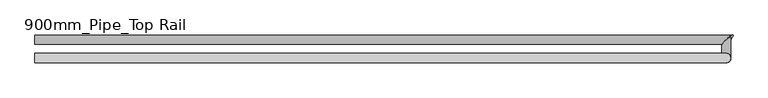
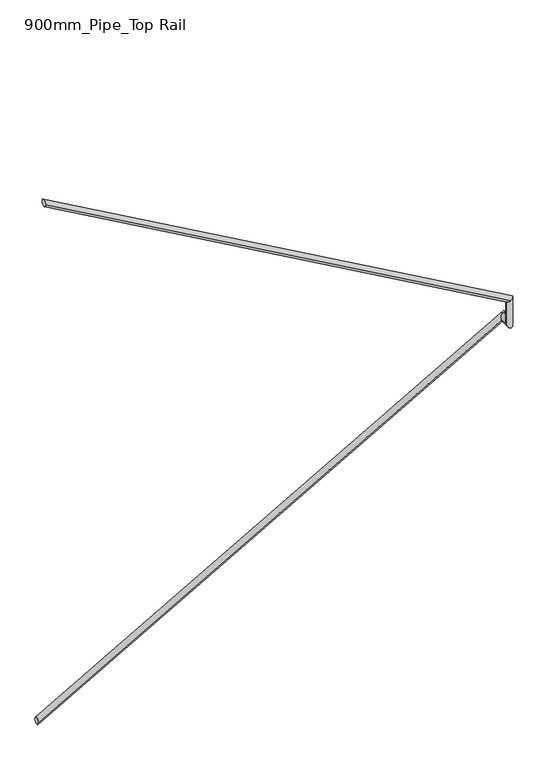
"""IFC4 building model written with IfcOpenShell, lengths in millimetres: railing geometry, 900mm_Pipe_Top Rail."""

import ifcopenshell
import ifcopenshell.guid

model = None  # the IFC model being written
_history = None  # IfcOwnerHistory: only IFC2X3 demands one
_inside = {}  # id of a spatial element -> (the spatial element, [elements in it])
_under = {}  # id of a project, library or spatial element -> (it, [spatial elements below it])
_declared = {}  # id of a project -> (the project, [libraries it declares])
_typed = {}  # id of a type object -> (the type object, [elements of that type])
_made_of = {}  # id of a material, layer set ... -> (it, [elements and type objects made of it])


def new_model(schema):
    """Start an empty IFC model of exactly this schema.

    Asked for "IFC4X3", IfcOpenShell would pick the latest addendum, in which some entities
    have other attributes; the version numbers below select the first issue.
    IFC2X3 requires an IfcOwnerHistory on every rooted entity: one is made here for all.
    """
    global model, _history
    if schema == "IFC4X3":
        model = ifcopenshell.file(schema_version=(4, 3, 0, 0))
    else:
        model = ifcopenshell.file(schema=schema)
    _inside.clear()
    _under.clear()
    _declared.clear()
    _typed.clear()
    _made_of.clear()
    _history = None
    if model.schema == "IFC2X3":
        org = make("IfcOrganization", Name="unknown")
        user = make(
            "IfcPersonAndOrganization",
            ThePerson=make("IfcPerson", FamilyName="unknown"),
            TheOrganization=org,
        )
        app = make(
            "IfcApplication",
            ApplicationDeveloper=org,
            Version="unknown",
            ApplicationFullName="unknown",
            ApplicationIdentifier="unknown",
        )
        _history = make(
            "IfcOwnerHistory",
            OwningUser=user,
            OwningApplication=app,
            ChangeAction="ADDED",
            CreationDate=0,
        )
    return model


def make(cls, **values):
    """One entity of the class cls with the attributes given. An attribute that is None is left unset."""
    return model.create_entity(
        cls, **{name: value for name, value in values.items() if value is not None}
    )


def rooted(cls, **values):
    """An entity with a GlobalId (a new one), such as an element, a storey or a relation."""
    return make(cls, GlobalId=ifcopenshell.guid.new(), OwnerHistory=_history, **values)


def si_unit(unit_type, name, prefix=None):
    """IfcSIUnit, for example si_unit("LENGTHUNIT", "METRE", prefix="MILLI")."""
    return make("IfcSIUnit", UnitType=unit_type, Prefix=prefix, Name=name)


def assignment(units):
    """IfcUnitAssignment: the units of a project."""
    return None if units is None else make("IfcUnitAssignment", Units=units)


def point(xyz):
    """IfcCartesianPoint."""
    return None if xyz is None else make("IfcCartesianPoint", Coordinates=xyz)


def direction(xyz):
    """IfcDirection."""
    return None if xyz is None else make("IfcDirection", DirectionRatios=xyz)


def frame(location, z_axis=None, x_axis=None):
    """IfcAxis2Placement3D, a coordinate frame: its origin and axes. An axis left out is left unset."""
    return make(
        "IfcAxis2Placement3D",
        Location=point(location),
        Axis=direction(z_axis),
        RefDirection=direction(x_axis),
    )


def origin():
    """The frame at (0, 0, 0) with its axes left unset."""
    return frame((0.0, 0.0, 0.0))


def place(relative_to, where):
    """IfcLocalPlacement: puts the frame where relative to a parent placement (None: the world)."""
    return make(
        "IfcLocalPlacement", PlacementRelTo=relative_to, RelativePlacement=where
    )


def context(
    kind, dimensions, precision=None, world=None, true_north=None, identifier=None
):
    """IfcGeometricRepresentationContext, for example the 3D "Model" context."""
    return make(
        "IfcGeometricRepresentationContext",
        ContextIdentifier=identifier,
        ContextType=kind,
        CoordinateSpaceDimension=dimensions,
        Precision=precision,
        WorldCoordinateSystem=world,
        TrueNorth=true_north,
    )


def project(units=None, contexts=None):
    """IfcProject with its units and contexts."""
    return rooted(
        "IfcProject",
        Name="project",
        RepresentationContexts=contexts,
        UnitsInContext=assignment(units),
    )


def spatial(cls, under=None, at=None, **own):
    """A site, building, storey or space (cls), placed at a placement, below another one or the project."""
    s = rooted(cls, ObjectPlacement=at, **own)
    if under is not None:
        _under.setdefault(under.id(), (under, []))[1].append(s)
    return s


def ellipse_curve(where, semi_axis1, semi_axis2):
    """IfcEllipse in the frame where."""
    return make(
        "IfcEllipse", Position=where, SemiAxis1=semi_axis1, SemiAxis2=semi_axis2
    )


def shape(context_of_items, identifier, shape_type, items):
    """IfcShapeRepresentation: the items that make up one representation, for example the "Body"."""
    return make(
        "IfcShapeRepresentation",
        ContextOfItems=context_of_items,
        RepresentationIdentifier=identifier,
        RepresentationType=shape_type,
        Items=items,
    )


def source(mapping_origin, context_of_items, identifier, shape_type, items):
    """IfcRepresentationMap: a shape defined once, which mapped items show again and again."""
    return make(
        "IfcRepresentationMap",
        MappingOrigin=mapping_origin,
        MappedRepresentation=shape(context_of_items, identifier, shape_type, items),
    )


def transform(
    local_origin,
    x_axis=None,
    y_axis=None,
    z_axis=None,
    scale=None,
    scale2=None,
    scale3=None,
    uniform=True,
):
    """IfcCartesianTransformationOperator3D, or its non-uniform kind. x_axis, y_axis, z_axis: its Axis1, 2, 3."""
    if uniform:
        return make(
            "IfcCartesianTransformationOperator3D",
            Axis1=direction(x_axis),
            Axis2=direction(y_axis),
            LocalOrigin=point(local_origin),
            Scale=scale,
            Axis3=direction(z_axis),
        )
    return make(
        "IfcCartesianTransformationOperator3DnonUniform",
        Axis1=direction(x_axis),
        Axis2=direction(y_axis),
        LocalOrigin=point(local_origin),
        Scale=scale,
        Axis3=direction(z_axis),
        Scale2=scale2,
        Scale3=scale3,
    )


def mapped(mapping_source, mapping_target):
    """IfcMappedItem: shows the shape of a source again, moved by a transform."""
    return make(
        "IfcMappedItem", MappingSource=mapping_source, MappingTarget=mapping_target
    )


def made_of(thing, what):
    """Note that an element or type object is made of a material, layer set ...; save() writes the relation."""
    if what is not None:
        _made_of.setdefault(what.id(), (what, []))[1].append(thing)
    return thing


def element(
    cls,
    number,
    at=None,
    inside=None,
    cuts=None,
    type_object=None,
    material=None,
    context=None,
    identifier="Body",
    shape_type=None,
    held_by="IfcProductDefinitionShape",
    body=None,
    shapes=None,
    **own,
):
    """One element of the class cls, such as IfcWall. Its Tag is "e" and its number.

    at: its placement. inside: the storey or other place that contains it. cuts: it is an
    opening in that element (IfcRelVoidsElement). A single representation is given by context,
    identifier, shape_type and body (its items); several are given by shapes. held_by: the class
    of the entity that holds the representations. save() writes the other relations.
    """
    e = rooted(cls, Tag="e%d" % number, ObjectPlacement=at, **own)
    if body is not None:
        shapes = [shape(context, identifier, shape_type, body)]
    if shapes is not None:
        e.Representation = make(held_by, Representations=shapes)
    if inside is not None:
        _inside.setdefault(inside.id(), (inside, []))[1].append(e)
    if cuts is not None:
        rooted(
            "IfcRelVoidsElement", RelatingBuildingElement=cuts, RelatedOpeningElement=e
        )
    if type_object is not None:
        _typed.setdefault(type_object.id(), (type_object, []))[1].append(e)
    return made_of(e, material)


def aggregate(whole, parts):
    """IfcRelAggregates: a whole, such as a stair, and the parts it consists of."""
    return rooted("IfcRelAggregates", RelatingObject=whole, RelatedObjects=parts)


def save(model, path):
    """Write the relations noted so far, then the file.

    IfcRelAggregates (storeys below a building ...), IfcRelContainedInSpatialStructure (elements
    in a storey), IfcRelDefinesByType, IfcRelAssociatesMaterial and IfcRelDeclares: one each for
    every whole, place, type object, material and project.
    """
    for whole, parts in _under.values():
        aggregate(whole, parts)
    for where, things in _inside.values():
        rooted(
            "IfcRelContainedInSpatialStructure",
            RelatedElements=things,
            RelatingStructure=where,
        )
    for kind, things in _typed.values():
        rooted("IfcRelDefinesByType", RelatedObjects=things, RelatingType=kind)
    for what, things in _made_of.values():
        rooted("IfcRelAssociatesMaterial", RelatedObjects=things, RelatingMaterial=what)
    for by, libraries in _declared.values():
        rooted("IfcRelDeclares", RelatingContext=by, RelatedDefinitions=libraries)
    model.write(path)


def plane_surface(at):
    """IfcPlane: the flat surface through the origin of the frame at, square to its z axis."""
    return make("IfcPlane", Position=at)


def cylinder_surface(at, radius):
    """IfcCylindricalSurface: all points at the distance radius from the z axis of the frame at."""
    return make("IfcCylindricalSurface", Position=at, Radius=radius)


def advanced_brep(points, edges, surfaces, faces):
    """IfcAdvancedBrep: a solid bounded by faces that lie on surfaces and meet in shared edges.

    An edge is (start, end): straight between two places in points (the first is 0);
    or (start, end, curve); or (start, end, curve, False) where it runs against its curve.
    A face is (place in surfaces, loops), or (place, loops, False) where it looks against
    its surface's normal. A loop lists edges by number (the first is 1), with a minus sign
    where the edge is run from its end to its start. The first loop is the outer one.
    """
    corners = [point(p) for p in points]
    vertices = [make("IfcVertexPoint", VertexGeometry=c) for c in corners]
    made = []
    for start, end, *more in edges:
        made.append(
            make(
                "IfcEdgeCurve",
                EdgeStart=vertices[start],
                EdgeEnd=vertices[end],
                EdgeGeometry=more[0] if more else make("IfcPolyline", Points=[corners[start], corners[end]]),
                SameSense=more[1] if len(more) > 1 else True,
            )
        )
    hull = []
    for where, loops, *sense in faces:
        bounds = []
        for j, loop in enumerate(loops):
            ring = [make("IfcOrientedEdge", EdgeElement=made[abs(k) - 1], Orientation=k > 0) for k in loop]
            bounds.append(
                make(
                    "IfcFaceOuterBound" if j == 0 else "IfcFaceBound",
                    Bound=make("IfcEdgeLoop", EdgeList=ring),
                    Orientation=True,
                )
            )
        hull.append(make("IfcAdvancedFace", Bounds=bounds, FaceSurface=surfaces[where], SameSense=sense[0] if sense else True))
    return make("IfcAdvancedBrep", Outer=make("IfcClosedShell", CfsFaces=hull))


def railing_900mm_pipe_top_rail_08d98103(model_context):
    return source(origin(), model_context, "Body", "AdvancedBrep", [
        advanced_brep(
        [(-801.4958562, 12314.5395051, 8557.451671), (-801.4958562, 12354.5395051, 8557.451671), (2190.9952008, 12314.5395051, 10257.7306807), (2225.7734631, 12354.5395051, 10277.491057)],
        [
            (0, 1, ellipse_curve(frame((-801.4958562, 12334.5395051, 8557.451671), z_axis=(-1.0, 0.0, 0.0), x_axis=(0.0, 0.0, -0.9999999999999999)), 23.0028744, 20.0)),
            (1, 0, ellipse_curve(frame((-801.4958562, 12334.5395051, 8557.451671), z_axis=(-1.0, 0.0, 0.0), x_axis=(0.0, 0.0, -0.9999999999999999)), 23.0028744, 20.0)),
            (2, 3, ellipse_curve(frame((2208.3843319, 12334.5395051, 10267.6108689), z_axis=(0.6147986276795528, -0.7071067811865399, 0.34931740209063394), x_axis=(-0.6147986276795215, -0.7071067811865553, -0.34931740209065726)), 28.2842712, 20.0)),
            (3, 2, ellipse_curve(frame((2208.3843319, 12334.5395051, 10267.6108689), z_axis=(0.6147986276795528, -0.7071067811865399, 0.34931740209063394), x_axis=(-0.6147986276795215, -0.7071067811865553, -0.34931740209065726)), 28.2842712, 20.0)),
            (0, 2),
            (3, 1),
        ],
        [
            plane_surface(frame((-801.4958562, 12334.5395051, 8580.4545455), z_axis=(-1.0, 0.0, 0.0), x_axis=(0.0, 1.0, 0.0))),
            plane_surface(frame((2198.5041438, 12334.5395051, 10285.0), z_axis=(0.6147986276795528, -0.7071067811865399, 0.34931740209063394), x_axis=(0.7886841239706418, 0.5512070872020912, -0.27230148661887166))),
            cylinder_surface(frame((-791.6156681, 12334.5395051, 8563.0654143), z_axis=(-0.8694565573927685, 0.0, -0.49400940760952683), x_axis=(0.0, 1.0, 0.0)), 20.0),
        ],
        [
            (0, [[1, 2]]),
            (1, [[3, 4]]),
            (2, [[-1, 5, -4, 6]]),
            (2, [[-2, -6, -3, -5]]),
        ],
    ),
        advanced_brep(
        [(2178.9041438, 12307.2701858, 10265.0), (2218.9041438, 12342.0484481, 10265.0), (2178.9041438, 12254.2238126, 10265.0), (2218.9041438, 12254.2238126, 10265.0)],
        [
            (0, 1, ellipse_curve(frame((2198.9041438, 12324.6593169, 10265.0), z_axis=(-0.6147986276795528, 0.7071067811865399, -0.34931740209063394), x_axis=(0.6147986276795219, 0.707106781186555, 0.3493174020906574)), 28.2842712, 20.0)),
            (1, 0, ellipse_curve(frame((2198.9041438, 12324.6593169, 10265.0), z_axis=(-0.6147986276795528, 0.7071067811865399, -0.34931740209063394), x_axis=(0.6147986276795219, 0.707106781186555, 0.3493174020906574)), 28.2842712, 20.0)),
            (2, 3, ellipse_curve(frame((2198.9041438, 12254.2238126, 10265.0), z_axis=(0.0, -0.7071067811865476, 0.7071067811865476), x_axis=(0.0, 0.7071067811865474, 0.7071067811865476)), 28.2842712, 20.0)),
            (3, 2, ellipse_curve(frame((2198.9041438, 12254.2238126, 10265.0), z_axis=(0.0, -0.7071067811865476, 0.7071067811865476), x_axis=(0.0, 0.7071067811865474, 0.7071067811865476)), 28.2842712, 20.0)),
            (0, 2),
            (3, 1),
        ],
        [
            plane_surface(frame((2198.9041438, 12334.5395051, 10285.0), z_axis=(-0.6147986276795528, 0.7071067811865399, -0.34931740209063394), x_axis=(0.7886841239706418, 0.5512070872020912, -0.27230148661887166))),
            plane_surface(frame((2198.9041438, 12274.2238126, 10285.0), z_axis=(0.0, -0.7071067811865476, 0.7071067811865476), x_axis=(1.0, 0.0, 0.0))),
            cylinder_surface(frame((2198.9041438, 12334.5395051, 10265.0), z_axis=(0.0, 1.0, 0.0), x_axis=(1.0, 0.0, 0.0)), 20.0),
        ],
        [
            (0, [[1, 2]]),
            (1, [[3, 4]]),
            (2, [[-1, 5, -4, 6]]),
            (2, [[-2, -6, -3, -5]]),
        ],
    ),
        advanced_brep(
        [(2178.9041438, 12254.2238126, 10265.0), (2218.9041438, 12254.2238126, 10265.0), (2178.9041438, 12254.2238126, 10420.5851603), (2218.9041438, 12254.2238126, 10443.8636364)],
        [
            (0, 1, ellipse_curve(frame((2198.9041438, 12254.2238126, 10265.0), z_axis=(0.0, 0.7071067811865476, -0.7071067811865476), x_axis=(0.0, -0.7071067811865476, -0.7071067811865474)), 28.2842712, 20.0)),
            (1, 0, ellipse_curve(frame((2198.9041438, 12254.2238126, 10265.0), z_axis=(0.0, 0.7071067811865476, -0.7071067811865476), x_axis=(0.0, -0.7071067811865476, -0.7071067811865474)), 28.2842712, 20.0)),
            (2, 3, ellipse_curve(frame((2198.9041438, 12254.2238126, 10432.2243983), z_axis=(-0.5029863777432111, 0.0, 0.8642943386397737), x_axis=(-0.8642943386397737, 0.0, -0.502986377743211)), 23.140265, 20.0)),
            (3, 2, ellipse_curve(frame((2198.9041438, 12254.2238126, 10432.2243983), z_axis=(-0.5029863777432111, 0.0, 0.8642943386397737), x_axis=(-0.8642943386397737, 0.0, -0.502986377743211)), 23.140265, 20.0)),
            (0, 2),
            (3, 1),
        ],
        [
            plane_surface(frame((2198.9041438, 12254.2238126, 10265.0), z_axis=(0.0, 0.7071067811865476, -0.7071067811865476), x_axis=(1.0, 0.0, 0.0))),
            plane_surface(frame((2198.9041438, 12254.2238126, 10432.2243983), z_axis=(-0.5029863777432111, 0.0, 0.8642943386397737), x_axis=(0.8642943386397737, 0.0, 0.5029863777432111))),
            cylinder_surface(frame((2198.9041438, 12254.2238126, 10265.0), z_axis=(0.0, 0.0, -1.0), x_axis=(1.0, 0.0, 0.0)), 20.0),
        ],
        [
            (0, [[1, 2]]),
            (1, [[3, 4]]),
            (2, [[-1, 5, -4, 6]]),
            (2, [[-2, -6, -3, -5]]),
        ],
    ),
        advanced_brep(
        [(2198.9041438, 12274.2238126, 10432.2243983), (2198.9041438, 12234.2238126, 10432.2243983), (-801.4958562, 12274.2238126, 12136.9971256), (-801.4958562, 12234.2238126, 12136.9971256)],
        [
            (0, 1, ellipse_curve(frame((2198.9041438, 12254.2238126, 10432.2243983), z_axis=(0.5029863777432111, 0.0, -0.8642943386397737), x_axis=(0.8642943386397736, 0.0, 0.5029863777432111)), 23.140265, 20.0)),
            (1, 0, ellipse_curve(frame((2198.9041438, 12254.2238126, 10432.2243983), z_axis=(0.5029863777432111, 0.0, -0.8642943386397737), x_axis=(0.8642943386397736, 0.0, 0.5029863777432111)), 23.140265, 20.0)),
            (2, 3, ellipse_curve(frame((-801.4958562, 12254.2238126, 12136.9971256), z_axis=(-1.0, 0.0, 0.0), x_axis=(0.0, 0.0, -1.0)), 23.0028744, 20.0)),
            (3, 2, ellipse_curve(frame((-801.4958562, 12254.2238126, 12136.9971256), z_axis=(-1.0, 0.0, 0.0), x_axis=(0.0, 0.0, -1.0)), 23.0028744, 20.0)),
            (0, 2),
            (3, 1),
        ],
        [
            plane_surface(frame((2218.9041438, 12254.2238126, 10443.8636364), z_axis=(0.5029863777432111, 0.0, -0.8642943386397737), x_axis=(0.8642943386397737, 0.0, 0.5029863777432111))),
            plane_surface(frame((-801.4958562, 12254.2238126, 12160.0), z_axis=(-1.0, 0.0, 0.0), x_axis=(0.0, -1.0, 0.0))),
            cylinder_surface(frame((2209.0239556, 12254.2238126, 10426.4745052), z_axis=(0.8694565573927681, 0.0, -0.49400940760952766), x_axis=(0.0, -1.0, 0.0)), 20.0),
        ],
        [
            (0, [[1, 2]]),
            (1, [[3, 4]]),
            (2, [[-1, 5, -4, 6]]),
            (2, [[-2, -6, -3, -5]]),
        ],
    ),
    ])


if __name__ == "__main__":
    model = new_model("IFC4")
    model_context = context("Model", 3, world=origin())
    ifc_project = project(units=[si_unit("LENGTHUNIT", "METRE", prefix="MILLI")], contexts=[model_context])
    site = spatial("IfcSite", under=ifc_project)
    building = spatial("IfcBuilding", under=site)
    placement = place(None, origin())
    railing_900mm_pipe_top_rail_shape = railing_900mm_pipe_top_rail_08d98103(model_context)
    element("IfcRailing", 1, ObjectType="900mm_Pipe_Top Rail", at=placement, inside=building, context=model_context, shape_type="MappedRepresentation", body=[
        mapped(railing_900mm_pipe_top_rail_shape, transform((0.0, 0.0, 0.0), x_axis=(1.0, 0.0, 0.0), y_axis=(0.0, 1.0, 0.0), z_axis=(0.0, 0.0, 1.0))),
    ])
    save(model, "model.ifc")
